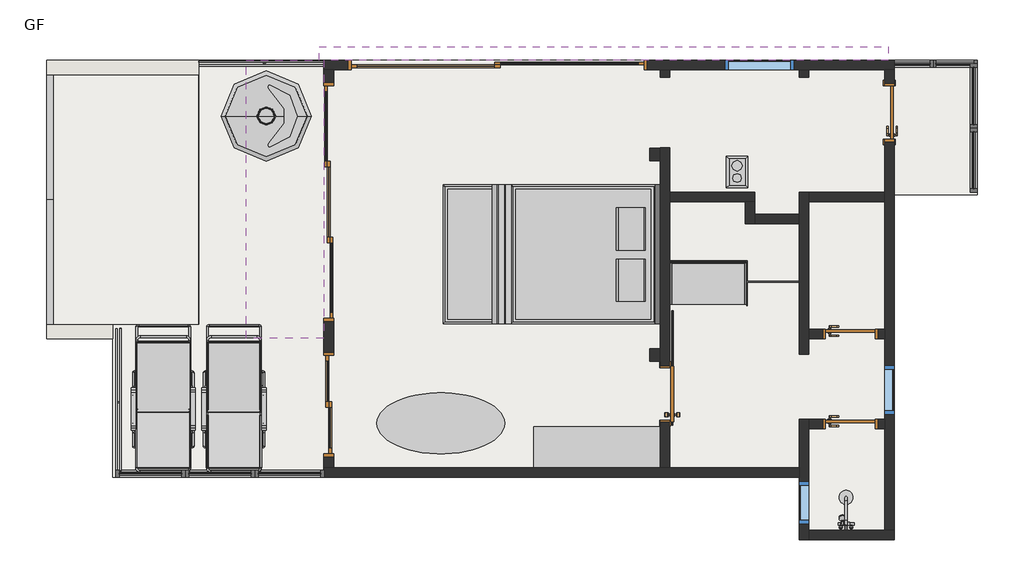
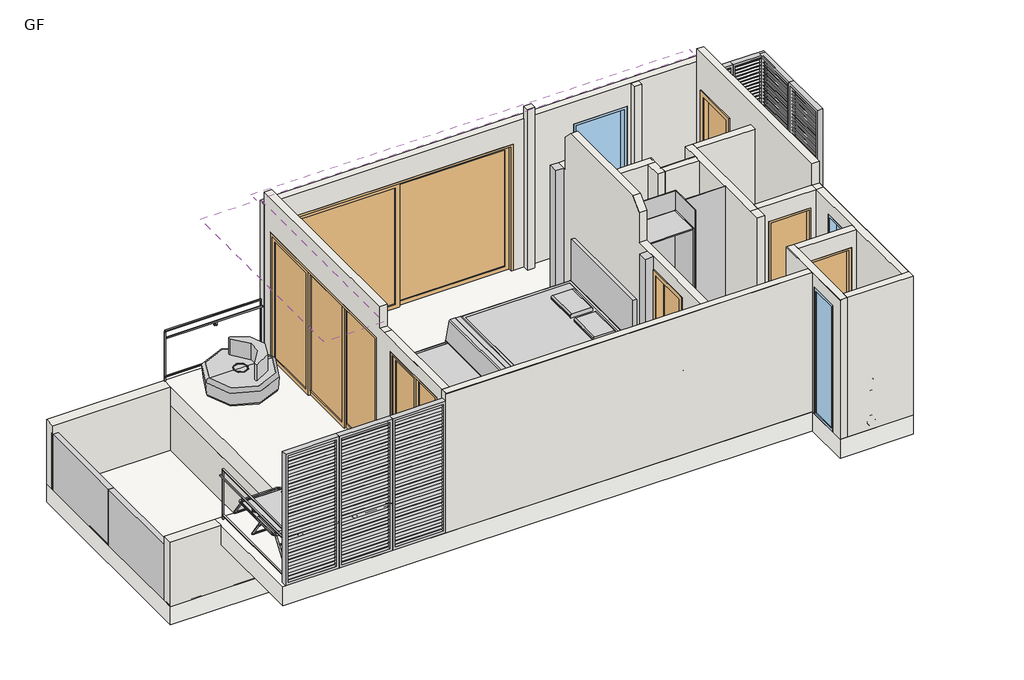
# One storey, incomplete: 19 walls, 9 plates, 7 doors, 6 furniture elements, 5 proxies, 3 windows, 2 columns, 2 railings, 4 other elements.
"""IFC4 building model written with IfcOpenShell, lengths in millimetres."""

from ifc_helpers import new_model, si_unit, frame, origin, place, context, project, spatial, polyline, outline, extrude, faceted_brep, transform, mapped, element, save
from components import building_element_proxy_cf76aa7a, generic_models_9412027a, generic_models_c3175720, proxy_305_x_457mm_75991893, door_1500x2500mm_faec45d4, door_3450x2500mm_e06ce5b7, door_4300x2500mm_0f1cdf81, door_800_x_2425mm_65640e85, door_800_x_2450mm_f909f3a4, door_850_x_2425mm_c86dc4c1, flow_terminal_c37f5bd6, furniture_7e7049e8, furniture_a10c869f, furniture_6569f3a2, furniture_1678007a, furniture_1830_x_0762mm_41534f7a, plate_4897ade4, plate_be6fd167, plate_ee00122f, plate_0f27ba0c, window_1000x2500mm_fe69bf6f, window_600x2500mm_82114602, window_700x2500mm_27f117f9

model = new_model("IFC4")

# Units and contexts
model_context = context("Model", 3, world=origin())
ifc_project = project(units=[si_unit("LENGTHUNIT", "METRE", prefix="MILLI")], contexts=[model_context])

# Site, building, storey
site = spatial("IfcSite", under=ifc_project)
building = spatial("IfcBuilding", under=site)
storey = spatial("IfcBuildingStorey", under=building, Name="GF", Elevation=20.0)

# Proxies
placement = place(None, origin())
building_element_proxy_shape = building_element_proxy_cf76aa7a(model_context)
element("IfcBuildingElementProxy", 1, Name="支座 - 金属 - 圆形 : 支座 - 金属 - 圆形", ObjectType="支座 - 金属 - 圆形 : 支座 - 金属 - 圆形", at=placement, inside=storey, context=model_context, shape_type="MappedRepresentation", body=[
    mapped(building_element_proxy_shape, transform((-3835.6711453, 2962.6904444, 900.0), x_axis=(1.0, 0.0, 0.0), y_axis=(0.0, 1.0, 0.0), z_axis=(0.0, 0.0, 1.0))),
])
element("IfcBuildingElementProxy", 2, Name="支座 - 金属 - 圆形 : 支座 - 金属 - 圆形", ObjectType="支座 - 金属 - 圆形 : 支座 - 金属 - 圆形", at=placement, inside=storey, context=model_context, shape_type="MappedRepresentation", body=[
    mapped(building_element_proxy_shape, transform((-5961.467766, -1883.9595556, 900.0), x_axis=(0.0, -1.0, 0.0), y_axis=(1.0, 0.0, 0.0), z_axis=(0.0, 0.0, 1.0))),
])
generic_models_shape = generic_models_9412027a(model_context)
element("IfcBuildingElementProxy", 3, Name="双人床5 : 双人床5", ObjectType="双人床5 : 双人床5", at=placement, inside=storey, context=model_context, shape_type="MappedRepresentation", body=[
    mapped(generic_models_shape, transform((-477.867766, -505.8095556, 20.0), x_axis=(0.0, -1.0, 0.0), y_axis=(1.0, 0.0, 0.0), z_axis=(0.0, 0.0, 1.0))),
])
generic_models_2_shape = generic_models_c3175720(model_context)
element("IfcBuildingElementProxy", 4, Name="常规模型 3 : 常规模型 3", ObjectType="常规模型 3 : 常规模型 3", at=placement, inside=storey, context=model_context, shape_type="MappedRepresentation", body=[
    mapped(generic_models_2_shape, transform((0.0, 0.0, 0.0), x_axis=(1.0, 0.0, 0.0), y_axis=(0.0, 1.0, 0.0), z_axis=(0.0, 0.0, 1.0))),
])
proxy_305_x_457mm_shape = proxy_305_x_457mm_75991893(model_context)
element("IfcBuildingElementProxy", 5, Name="炉灶面 - 2 套 : 305 x 457mm", ObjectType="炉灶面 - 2 套 : 305 x 457mm", at=placement, inside=storey, context=model_context, shape_type="MappedRepresentation", body=[
    mapped(proxy_305_x_457mm_shape, transform((2895.932234, 1401.4656489, 20.0), x_axis=(1.0, 0.0, 0.0), y_axis=(0.0, 1.0, 0.0), z_axis=(0.0, 0.0, 1.0))),
])

# Columns
element("IfcColumn", 6, ObjectType="矩形柱 : 180x180", at=placement, inside=storey, context=model_context, shape_type="SweptSolid", body=[
    extrude(outline(polyline([(1712.132234, 1594.1904444), (1712.132234, 1774.1904444), (1867.132234, 1774.1904444), (1867.132234, 1594.1904444), (1712.132234, 1594.1904444)])), frame((0.0, 0.0, 20.0), z_axis=(0.0, 0.0, 1.0), x_axis=(1.0, 0.0, 0.0)), (0.0, 0.0, 1.0), 2750.0),
])
element("IfcColumn", 7, ObjectType="矩形柱 : 180x180", at=placement, inside=storey, context=model_context, shape_type="SweptSolid", body=[
    extrude(outline(polyline([(1712.132234, -1295.3095556), (1712.132234, -1115.3095556), (1867.132234, -1115.3095556), (1867.132234, -1295.3095556), (1712.132234, -1295.3095556)])), frame((0.0, 0.0, 20.0), z_axis=(0.0, 0.0, 1.0), x_axis=(1.0, 0.0, 0.0)), (0.0, 0.0, 1.0), 2750.0),
])

# Covering
element("IfcCovering", 8, ObjectType="光面 4", at=placement, inside=storey, context=model_context, shape_type="SweptSolid", body=[
    extrude(outline(polyline([(-2976.6711453, -963.0095556), (-4096.6712332, -963.0095556), (-4096.6712332, 3041.6904444), (-3042.6712332, 3041.6904444), (-3042.6712332, 3236.6904444), (5152.1641491, 3236.6904444), (5152.1641491, 3041.6904444), (-2976.6711453, 3041.6904444), (-2976.6711453, -963.0095556)])), frame((0.0, 0.0, 2970.0), z_axis=(0.0, 0.0, 1.0), x_axis=(1.0, 0.0, 0.0)), (0.0, 0.0, 1.0), 20.0),
    extrude(outline(polyline([(5233.132234, -963.0095556), (5233.132234, 3041.6904444), (6348.2642683, 3041.6904444), (6348.2642683, -963.0095556), (5233.132234, -963.0095556)])), frame((0.0, 0.0, 2970.0), z_axis=(0.0, 0.0, 1.0), x_axis=(1.0, 0.0, 0.0)), (0.0, 0.0, 1.0), 20.0),
])

# Doors
door_1500x2500mm_shape = door_1500x2500mm_faec45d4(model_context)
element("IfcDoor", 9, ObjectType="双扇推拉门 : 1500x2500mm", at=placement, inside=storey, context=model_context, shape_type="MappedRepresentation", body=[
    mapped(door_1500x2500mm_shape, transform((-2867.6711453, -2044.2095556, 20.0), x_axis=(0.0, 1.0, 0.0), y_axis=(-1.0, 0.0, 0.0), z_axis=(0.0, 0.0, 1.0))),
])
door_3450x2500mm_shape = door_3450x2500mm_e06ce5b7(model_context)
element("IfcDoor", 10, ObjectType="三扇推拉门 : 3450x2500mm", at=placement, inside=storey, context=model_context, shape_type="MappedRepresentation", body=[
    mapped(door_3450x2500mm_shape, transform((-2907.6711453, 872.6905657, 20.0), x_axis=(0.0, 1.0, 0.0), y_axis=(-1.0, 0.0, 0.0), z_axis=(0.0, 0.0, 1.0))),
])
door_4300x2500mm_shape = door_4300x2500mm_0f1cdf81(model_context)
element("IfcDoor", 11, ObjectType="双扇推拉门 : 4300x2500mm", at=placement, inside=storey, context=model_context, shape_type="MappedRepresentation", body=[
    mapped(door_4300x2500mm_shape, transform((-351.6712309, 3012.6904444, 20.0), x_axis=(-1.0, 0.0, 0.0), y_axis=(0.0, -1.0, 0.0), z_axis=(0.0, 0.0, 1.0))),
])
door_800_x_2425mm_shape = door_800_x_2425mm_65640e85(model_context)
element("IfcDoor", 12, ObjectType="单扇平开门 : 800 x 2425mm", at=placement, inside=storey, context=model_context, shape_type="MappedRepresentation", body=[
    mapped(door_800_x_2425mm_shape, transform((4604.132234, -896.5345556, 20.0), x_axis=(1.0, 0.0, 0.0), y_axis=(0.0, 1.0, 0.0), z_axis=(0.0, 0.0, 1.0))),
])
element("IfcDoor", 13, ObjectType="单扇平开门 : 800 x 2425mm", at=placement, inside=storey, context=model_context, shape_type="MappedRepresentation", body=[
    mapped(door_800_x_2425mm_shape, transform((4604.132234, -2196.1345556, 20.0), x_axis=(1.0, 0.0, 0.0), y_axis=(0.0, 1.0, 0.0), z_axis=(0.0, 0.0, 1.0))),
])
door_800_x_2450mm_shape = door_800_x_2450mm_f909f3a4(model_context)
element("IfcDoor", 14, ObjectType="单扇推拉门 - 墙外 : 800 x 2450mm", at=placement, inside=storey, context=model_context, shape_type="MappedRepresentation", body=[
    mapped(door_800_x_2450mm_shape, transform((1936.132234, -1765.3095556, 20.0), x_axis=(0.0, -1.0, 0.0), y_axis=(1.0, 0.0, 0.0), z_axis=(0.0, 0.0, 1.0))),
])
door_850_x_2425mm_shape = door_850_x_2425mm_c86dc4c1(model_context)
element("IfcDoor", 15, ObjectType="单扇平开门 : 850 x 2425mm", at=placement, inside=storey, context=model_context, shape_type="MappedRepresentation", body=[
    mapped(door_850_x_2425mm_shape, transform((5167.307234, 2285.7904444, 20.0), x_axis=(0.0, 1.0, 0.0), y_axis=(-1.0, 0.0, 0.0), z_axis=(0.0, 0.0, 1.0))),
])

# Flow terminal
flow_terminal_shape = flow_terminal_c37f5bd6(model_context)
element("IfcFlowTerminal", 16, ObjectType="伟星_淋浴套装_圆形 : Rainshower", at=placement, inside=storey, context=model_context, shape_type="MappedRepresentation", body=[
    mapped(flow_terminal_shape, transform((4541.0440046, -3698.2095556, 20.0), x_axis=(-1.0, 0.0, 0.0), y_axis=(0.0, -1.0, 0.0), z_axis=(0.0, 0.0, 1.0))),
])

# Furniture
furniture_shape = furniture_7e7049e8(model_context)
element("IfcFurniture", 17, ObjectType="休闲椅-躺椅 : 休闲椅-躺椅", at=placement, inside=storey, context=model_context, shape_type="MappedRepresentation", body=[
    mapped(furniture_shape, transform((-5346.4155885, -1605.0053199, 20.0), x_axis=(-1.0, 0.0, 0.0), y_axis=(0.0, -1.0, 0.0), z_axis=(0.0, 0.0, 1.0))),
])
element("IfcFurniture", 18, ObjectType="休闲椅-躺椅 : 休闲椅-躺椅", at=placement, inside=storey, context=model_context, shape_type="MappedRepresentation", body=[
    mapped(furniture_shape, transform((-4327.111671, -1605.0053199, 20.0), x_axis=(-1.0, 0.0, 0.0), y_axis=(0.0, -1.0, 0.0), z_axis=(0.0, 0.0, 1.0))),
])
furniture_2_shape = furniture_a10c869f(model_context)
element("IfcFurniture", 19, ObjectType="沙发 : 沙发", at=placement, inside=storey, context=model_context, shape_type="MappedRepresentation", body=[
    mapped(furniture_2_shape, transform((-3808.1148663, 2236.6904444, 20.0), x_axis=(1.0, 0.0, 0.0), y_axis=(0.0, 1.0, 0.0), z_axis=(0.0, 0.0, 1.0))),
])
furniture_3_shape = furniture_6569f3a2(model_context)
element("IfcFurniture", 20, ObjectType="家具 2 : 家具 2", at=placement, inside=storey, context=model_context, shape_type="MappedRepresentation", body=[
    mapped(furniture_3_shape, transform((148.3176615, -4.7196103, 0.0), x_axis=(1.0, 0.0, 0.0), y_axis=(0.0, 1.0, 0.0), z_axis=(0.0, 0.0, 1.0))),
])
furniture_4_shape = furniture_1678007a(model_context)
element("IfcFurniture", 21, ObjectType="衣柜（全参数族） : 1092*2400*600", at=placement, inside=storey, context=model_context, shape_type="MappedRepresentation", body=[
    mapped(furniture_4_shape, transform((3102.132234, 724.6904444, 0.0), x_axis=(-1.0, 0.0, 0.0), y_axis=(0.0, -1.0, 0.0), z_axis=(0.0, 0.0, 1.0))),
])
furniture_1830_x_0762mm_shape = furniture_1830_x_0762mm_41534f7a(model_context)
element("IfcFurniture", 22, ObjectType="桌子 - 矩形 : 1830 x 0762mm", at=placement, inside=storey, context=model_context, shape_type="MappedRepresentation", body=[
    mapped(furniture_1830_x_0762mm_shape, transform((956.132234, -2535.2095556, 20.0), x_axis=(1.0, 0.0, 0.0), y_axis=(0.0, 1.0, 0.0), z_axis=(0.0, 0.0, 1.0))),
])

# Plates
plate_shape = plate_4897ade4(model_context)
element("IfcPlate", 23, ObjectType="幕墙嵌板-百叶 : 幕墙嵌板-百叶", at=placement, inside=storey, context=model_context, shape_type="MappedRepresentation", body=[
    mapped(plate_shape, transform((6378.232234, 2524.1904444, 20.0), x_axis=(0.0, -1.0, 0.0), y_axis=(1.0, 0.0, 0.0), z_axis=(0.0, 0.0, 1.0))),
])
element("IfcPlate", 24, ObjectType="幕墙嵌板-百叶 : 幕墙嵌板-百叶", at=placement, inside=storey, context=model_context, shape_type="MappedRepresentation", body=[
    mapped(plate_shape, transform((6378.232234, 1599.1904444, 20.0), x_axis=(0.0, -1.0, 0.0), y_axis=(1.0, 0.0, 0.0), z_axis=(0.0, 0.0, 1.0))),
])
plate_2_shape = plate_be6fd167(model_context)
element("IfcPlate", 25, ObjectType="幕墙嵌板-百叶 : 幕墙嵌板-百叶", at=placement, inside=storey, context=model_context, shape_type="MappedRepresentation", body=[
    mapped(plate_2_shape, transform((5480.157234, 2986.6904444, 20.0), x_axis=(1.0, 0.0, 0.0), y_axis=(0.0, 1.0, 0.0), z_axis=(0.0, 0.0, 1.0))),
])
element("IfcPlate", 26, ObjectType="幕墙嵌板-百叶 : 幕墙嵌板-百叶", at=placement, inside=storey, context=model_context, shape_type="MappedRepresentation", body=[
    mapped(plate_2_shape, transform((6112.207234, 2986.6904444, 20.0), x_axis=(1.0, 0.0, 0.0), y_axis=(0.0, 1.0, 0.0), z_axis=(0.0, 0.0, 1.0))),
])
plate_3_shape = plate_ee00122f(model_context)
element("IfcPlate", 27, ObjectType="幕墙嵌板-百叶 : 幕墙嵌板-百叶", at=placement, inside=storey, context=model_context, shape_type="MappedRepresentation", body=[
    mapped(plate_3_shape, transform((-3471.6372488, -2913.2095556, 20.0), x_axis=(-1.0, 0.0, 0.0), y_axis=(0.0, -1.0, 0.0), z_axis=(0.0, 0.0, 1.0))),
])
element("IfcPlate", 28, ObjectType="幕墙嵌板-百叶 : 幕墙嵌板-百叶", at=placement, inside=storey, context=model_context, shape_type="MappedRepresentation", body=[
    mapped(plate_3_shape, transform((-4471.5694557, -2913.2095556, 20.0), x_axis=(-1.0, 0.0, 0.0), y_axis=(0.0, -1.0, 0.0), z_axis=(0.0, 0.0, 1.0))),
])
element("IfcPlate", 29, ObjectType="幕墙嵌板-百叶 : 幕墙嵌板-百叶", at=placement, inside=storey, context=model_context, shape_type="MappedRepresentation", body=[
    mapped(plate_3_shape, transform((-5471.5016625, -2913.2095556, 20.0), x_axis=(-1.0, 0.0, 0.0), y_axis=(0.0, -1.0, 0.0), z_axis=(0.0, 0.0, 1.0))),
])
plate_4_shape = plate_0f27ba0c(model_context)
element("IfcPlate", 30, ObjectType="系统嵌板 : 玻璃", at=placement, inside=storey, context=model_context, shape_type="MappedRepresentation", body=[
    mapped(plate_4_shape, transform((-6921.467766, 115.4031258, -1250.0), x_axis=(0.0, 1.0, 0.0), y_axis=(-1.0, 0.0, 0.0), z_axis=(0.0, 0.0, 1.0))),
])
element("IfcPlate", 31, ObjectType="系统嵌板 : 玻璃", at=placement, inside=storey, context=model_context, shape_type="MappedRepresentation", body=[
    mapped(plate_4_shape, transform((-6921.467766, 1952.9280049, -1250.0), x_axis=(0.0, 1.0, 0.0), y_axis=(-1.0, 0.0, 0.0), z_axis=(0.0, 0.0, 1.0))),
])

# Railings
element("IfcRailing", 32, ObjectType="玻璃嵌板 - 底部填充", at=placement, inside=storey, context=model_context, shape_type="SolidModel", body=[
    faceted_brep([(-2936.6711453, 3009.6904444, 920.0), (-2936.6711453, 3009.6904444, 900.0), (-2956.6711453, 3009.6904444, 900.0), (-2956.6711453, 3009.6904444, 920.0), (-2936.6711453, 2952.6904444, 920.0), (-2936.6711453, 2952.6904444, 900.0), (-2956.6711453, 2972.6904444, 900.0), (-2956.6711453, 2972.6904444, 920.0), (-2976.6711453, 2952.6904444, 920.0), (-2976.6711453, 2952.6904444, 900.0), (-2976.6711453, 2972.6904444, 900.0), (-2976.6711453, 2972.6904444, 920.0), (-4771.6711453, 2952.6904444, 920.0), (-4771.6711453, 2972.6904444, 920.0), (-4771.6711453, 2972.6904444, 900.0), (-4771.6711453, 2952.6904444, 900.0)], [[[0, 1, 2, 3]], [[1, 0, 4, 5]], [[2, 1, 5, 6]], [[3, 2, 6, 7]], [[0, 3, 7, 4]], [[5, 4, 8, 9]], [[6, 5, 9, 10]], [[7, 6, 10, 11]], [[4, 7, 11, 8]], [[12, 13, 14, 15]], [[9, 8, 12, 15]], [[10, 9, 15, 14]], [[11, 10, 14, 13]], [[8, 11, 13, 12]]]),
    extrude(outline(polyline([(-2976.6711453, 3027.6904444), (-2976.6711453, 3007.6904444), (-4771.6711453, 3007.6904444), (-4771.6711453, 3027.6904444), (-2976.6711453, 3027.6904444)])), frame((0.0, 0.0, 1000.0), z_axis=(0.0, 0.0, 1.0), x_axis=(1.0, 0.0, 0.0)), (0.0, 0.0, 1.0), 20.0),
    extrude(outline(polyline([(-2976.6711453, 3027.6904444), (-2976.6711453, 3007.6904444), (-4771.6711453, 3007.6904444), (-4771.6711453, 3027.6904444), (-2976.6711453, 3027.6904444)])), frame((0.0, 0.0, 100.0), z_axis=(0.0, 0.0, 1.0), x_axis=(1.0, 0.0, 0.0)), (0.0, 0.0, 1.0), 20.0),
    extrude(outline(polyline([(-4759.6711453, 3027.6904444), (-4759.6711453, 3007.6904444), (-4779.6711453, 3007.6904444), (-4779.6711453, 3027.6904444), (-4759.6711453, 3027.6904444)])), frame((0.0, 0.0, 20.0), z_axis=(0.0, 0.0, 1.0), x_axis=(1.0, 0.0, 0.0)), (0.0, 0.0, 1.0), 980.0),
    extrude(outline(polyline([(-2968.6711453, 3027.6904444), (-2968.6711453, 3007.6904444), (-2988.6711453, 3007.6904444), (-2988.6711453, 3027.6904444), (-2968.6711453, 3027.6904444)])), frame((0.0, 0.0, 20.0), z_axis=(0.0, 0.0, 1.0), x_axis=(1.0, 0.0, 0.0)), (0.0, 0.0, 1.0), 980.0),
])
element("IfcRailing", 33, ObjectType="玻璃嵌板 - 底部填充", at=placement, inside=storey, context=model_context, shape_type="SolidModel", body=[
    faceted_brep([(-5914.467766, -2903.2095556, 920.0), (-5914.467766, -2903.2095556, 900.0), (-5914.467766, -2883.2095556, 900.0), (-5914.467766, -2883.2095556, 920.0), (-5971.467766, -2903.2095556, 920.0), (-5971.467766, -2903.2095556, 900.0), (-5951.467766, -2883.2095556, 900.0), (-5951.467766, -2883.2095556, 920.0), (-5971.467766, -2863.2095556, 920.0), (-5971.467766, -2863.2095556, 900.0), (-5951.467766, -2863.2095556, 900.0), (-5951.467766, -2863.2095556, 920.0), (-5971.467766, -827.7095556, 920.0), (-5951.467766, -827.7095556, 920.0), (-5951.467766, -827.7095556, 900.0), (-5971.467766, -827.7095556, 900.0)], [[[0, 1, 2, 3]], [[1, 0, 4, 5]], [[2, 1, 5, 6]], [[3, 2, 6, 7]], [[0, 3, 7, 4]], [[5, 4, 8, 9]], [[6, 5, 9, 10]], [[7, 6, 10, 11]], [[4, 7, 11, 8]], [[12, 13, 14, 15]], [[9, 8, 12, 15]], [[10, 9, 15, 14]], [[11, 10, 14, 13]], [[8, 11, 13, 12]]]),
    extrude(outline(polyline([(-5896.467766, -2863.2095556), (-5916.467766, -2863.2095556), (-5916.467766, -827.7095556), (-5896.467766, -827.7095556), (-5896.467766, -2863.2095556)])), frame((0.0, 0.0, 1000.0), z_axis=(0.0, 0.0, 1.0), x_axis=(1.0, 0.0, 0.0)), (0.0, 0.0, 1.0), 20.0),
    extrude(outline(polyline([(-5896.467766, -2863.2095556), (-5916.467766, -2863.2095556), (-5916.467766, -827.7095556), (-5896.467766, -827.7095556), (-5896.467766, -2863.2095556)])), frame((0.0, 0.0, 100.0), z_axis=(0.0, 0.0, 1.0), x_axis=(1.0, 0.0, 0.0)), (0.0, 0.0, 1.0), 20.0),
    extrude(outline(polyline([(-5896.467766, -839.7095556), (-5916.467766, -839.7095556), (-5916.467766, -819.7095556), (-5896.467766, -819.7095556), (-5896.467766, -839.7095556)])), frame((0.0, 0.0, 20.0), z_axis=(0.0, 0.0, 1.0), x_axis=(1.0, 0.0, 0.0)), (0.0, 0.0, 1.0), 980.0),
    extrude(outline(polyline([(-5896.467766, -2871.2095556), (-5916.467766, -2871.2095556), (-5916.467766, -2851.2095556), (-5896.467766, -2851.2095556), (-5896.467766, -2871.2095556)])), frame((0.0, 0.0, 20.0), z_axis=(0.0, 0.0, 1.0), x_axis=(1.0, 0.0, 0.0)), (0.0, 0.0, 1.0), 980.0),
])

# Slabs
element("IfcSlab", 34, ObjectType="常规 - 360mm", at=placement, inside=storey, context=model_context, shape_type="SweptSolid", body=[
    extrude(outline(polyline([(-6021.467766, -2968.2095556), (-6021.467766, -765.8593137), (-4771.6711453, -765.8593137), (-4771.6711453, 3041.6904444), (-2316.327803, 3041.6904444), (6433.572197, 3041.6904444), (6433.572197, 1104.4087993), (5233.132234, 1104.4087993), (5233.132234, -3868.2095556), (3867.132234, -3868.2095556), (3867.132234, -2968.2095556), (-6021.467766, -2968.2095556)])), frame((0.0, 0.0, -355.0), z_axis=(0.0, 0.0, 1.0), x_axis=(1.0, 0.0, 0.0)), (0.0, 0.0, 1.0), 375.0),
])
element("IfcSlab", 35, ObjectType="常规 - 360mm", at=placement, inside=storey, context=model_context, shape_type="SweptSolid", body=[
    extrude(outline(polyline([(-4643.6711453, -968.8593137), (-6971.467766, -968.8593137), (-6971.467766, 3037.1904444), (-4643.6711453, 3037.1904444), (-4643.6711453, -968.8593137)])), frame((0.0, 0.0, -1610.0), z_axis=(0.0, 0.0, 1.0), x_axis=(1.0, 0.0, 0.0)), (0.0, 0.0, 1.0), 375.0),
])

# Walls
element("IfcWall", 36, ObjectType="Int-100 10-09/100/09-10/S1", at=placement, inside=storey, context=model_context, shape_type="Brep", body=[
    faceted_brep([(5233.132234, 2903.6904444, 2950.0), (4005.132234, 2903.6904444, 2950.0), (3867.132234, 2903.6904444, 2950.0), (-2976.6711453, 2903.6904444, 2950.0), (-2976.6711453, 2903.6904444, 20.0), (-2838.6711453, 2903.6904444, 20.0), (-2626.6712309, 2903.6904444, 20.0), (-2626.6712309, 2903.6904444, 2520.0), (1673.3287691, 2903.6904444, 2520.0), (1673.3287691, 2903.6904444, 20.0), (1867.132234, 2903.6904444, 20.0), (2005.132234, 2903.6904444, 20.0), (2797.1321461, 2903.6904444, 20.0), (2797.1321461, 2903.6904444, 2520.0), (3797.1321461, 2903.6904444, 2520.0), (3797.1321461, 2903.6904444, 20.0), (3867.132234, 2903.6904444, 20.0), (4005.132234, 2903.6904444, 20.0), (5095.132234, 2903.6904444, 20.0), (5233.132234, 2903.6904444, 20.0), (-2976.6711453, 3041.6904444, 2950.0), (5233.132234, 3041.6904444, 2950.0), (5233.132234, 3041.6904444, 20.0), (3797.1321461, 3041.6904444, 20.0), (3797.1321461, 3041.6904444, 2520.0), (2797.1321461, 3041.6904444, 2520.0), (2797.1321461, 3041.6904444, 20.0), (1673.3287691, 3041.6904444, 20.0), (1673.3287691, 3041.6904444, 2520.0), (-2626.6712309, 3041.6904444, 2520.0), (-2626.6712309, 3041.6904444, 20.0), (-2976.6711453, 3041.6904444, 20.0)], [[[0, 1, 2, 3, 4, 5, 6, 7, 8, 9, 10, 11, 12, 13, 14, 15, 16, 17, 18, 19]], [[20, 21, 22, 23, 24, 25, 26, 27, 28, 29, 30, 31]], [[4, 31, 30, 6, 5]], [[9, 27, 26, 12, 11, 10]], [[22, 19, 18, 17, 16, 15, 23]], [[3, 2, 1, 0, 21, 20]], [[4, 3, 20, 31]], [[8, 28, 27, 9]], [[7, 6, 30, 29]], [[28, 8, 7, 29]], [[14, 24, 23, 15]], [[25, 13, 12, 26]], [[24, 14, 13, 25]], [[0, 19, 22, 21]]]),
])
element("IfcWall", 37, ObjectType="Int-100 10-09/100/09-10/S1", at=placement, inside=storey, context=model_context, shape_type="Brep", body=[
    faceted_brep([(-2838.6711453, 2903.6904444, 20.0), (-2838.6711453, 2903.6904444, 3200.0), (-2838.6711453, -830.2095556, 3200.0), (-2838.6711453, -830.2095556, 2770.0), (-2838.6711453, -968.2095556, 2770.0), (-2838.6711453, -2830.2095556, 2770.0), (-2838.6711453, -2830.2095556, 20.0), (-2838.6711453, -2669.2095556, 20.0), (-2838.6711453, -2669.2095556, 2520.0), (-2838.6711453, -1169.2095556, 2520.0), (-2838.6711453, -1169.2095556, 20.0), (-2838.6711453, -727.3094343, 20.0), (-2838.6711453, -727.3094343, 2520.0), (-2838.6711453, 2722.6905657, 2520.0), (-2838.6711453, 2722.6905657, 20.0), (-2976.6711453, 2903.6904444, 3200.0), (-2976.6711453, 2903.6904444, 2950.0), (-2976.6711453, 2903.6904444, 20.0), (-2976.6711453, 2722.6905657, 20.0), (-2976.6711453, 2722.6905657, 2520.0), (-2976.6711453, -727.3094343, 2520.0), (-2976.6711453, -727.3094343, 20.0), (-2976.6711453, -1169.2095556, 20.0), (-2976.6711453, -1169.2095556, 2520.0), (-2976.6711453, -2669.2095556, 2520.0), (-2976.6711453, -2669.2095556, 20.0), (-2976.6711453, -2830.2095556, 20.0), (-2976.6711453, -2830.2095556, 2770.0), (-2976.6711453, -968.2095556, 2770.0), (-2976.6711453, -830.2095556, 2770.0), (-2976.6711453, -830.2095556, 3200.0), (-2971.6711453, -2830.2095556, 2770.0), (-2971.6711453, -968.2095556, 2770.0), (-2971.6711453, -1308.0095556, 2770.0), (-2971.6711453, -830.2095556, 2770.0)], [[[0, 1, 2, 3, 4, 5, 6, 7, 8, 9, 10, 11, 12, 13, 14]], [[15, 16, 17, 18, 19, 20, 21, 22, 23, 24, 25, 26, 27, 28, 29, 30]], [[1, 0, 17, 16, 15]], [[6, 5, 31, 27, 26]], [[12, 11, 21, 20]], [[14, 13, 19, 18]], [[13, 12, 20, 19]], [[5, 4, 32, 33, 31]], [[0, 14, 18, 17]], [[21, 11, 10, 22]], [[6, 26, 25, 7]], [[2, 1, 15, 30]], [[3, 2, 30, 29, 34]], [[9, 23, 22, 10]], [[23, 9, 8, 24]], [[24, 8, 7, 25]], [[4, 3, 34, 32]], [[28, 27, 31, 33, 32]], [[29, 28, 32, 34]]]),
])
element("IfcWall", 38, ObjectType="Int-100 10-09/100/09-10/S1 2", at=placement, inside=storey, context=model_context, shape_type="Brep", body=[
    faceted_brep([(-6971.467766, -968.8593137, -1250.0), (-5971.467766, -968.8593137, -1250.0), (-5571.467766, -968.8593137, -1250.0), (-4638.6711453, -968.8593137, -1250.0), (-4638.6711453, -968.8593137, -355.0), (-5571.467766, -968.8593137, -355.0), (-5971.467766, -968.8593137, -355.0), (-6021.467766, -968.8593137, -355.0), (-6021.467766, -968.8593137, 20.0), (-6971.467766, -968.8593137, 20.0), (-6971.467766, -765.8593137, -1250.0), (-6971.467766, -765.8593137, 20.0), (-6021.467766, -765.8593137, 20.0), (-6021.467766, -765.8593137, -355.0), (-4776.6711453, -765.8593137, -355.0), (-4638.6711453, -765.8593137, -355.0), (-4638.6711453, -765.8593137, -1250.0), (-4776.6711453, -765.8593137, -1250.0)], [[[0, 1, 2, 3, 4, 5, 6, 7, 8, 9]], [[10, 11, 12, 13, 14, 15, 16, 17]], [[4, 3, 16, 15]], [[3, 2, 1, 0, 10, 17, 16]], [[9, 8, 12, 11]], [[0, 9, 11, 10]], [[7, 6, 5, 4, 15, 14, 13]], [[8, 7, 13, 12]]]),
])
element("IfcWall", 39, ObjectType="Int-100 10-09/100/09-10/S1 2", at=placement, inside=storey, context=model_context, shape_type="Brep", body=[
    faceted_brep([(-4776.6711453, 3037.1904444, -1250.0), (-6971.467766, 3037.1904444, -1250.0), (-6971.467766, 3037.1904444, 20.0), (-4776.6711453, 3037.1904444, 20.0), (-4776.6711453, 3037.1904444, -355.0), (-4776.6711453, 2834.1904444, -1250.0), (-4776.6711453, 2834.1904444, 20.0), (-6971.467766, 2834.1904444, 20.0), (-6971.467766, 2834.1904444, -1250.0)], [[[0, 1, 2, 3, 4]], [[5, 6, 7, 8]], [[1, 0, 5, 8]], [[2, 1, 8, 7]], [[3, 2, 7, 6]], [[0, 4, 3, 6, 5]]]),
])
element("IfcWall", 40, ObjectType="Int-100 10-09/100/09-10/S1", at=placement, inside=storey, context=model_context, shape_type="Brep", body=[
    faceted_brep([(-4638.6711453, -765.8593137, -1250.0), (-4638.6711453, 3037.1904444, -1250.0), (-4638.6711453, 3037.1904444, -355.0), (-4638.6711453, -765.8593137, -355.0), (-4776.6711453, -765.8593137, -1250.0), (-4776.6711453, -765.8593137, -355.0), (-4776.6711453, 3037.1904444, -355.0), (-4776.6711453, 3037.1904444, -1250.0), (-4776.6711453, 2834.1904444, -1250.0)], [[[0, 1, 2, 3]], [[4, 5, 6, 7, 8]], [[1, 0, 4, 8, 7]], [[3, 2, 6, 5]], [[0, 3, 5, 4]], [[2, 1, 7, 6]]]),
])
element("IfcWall", 41, ObjectType="Int-100 10-09/100/09-10/S1", at=placement, inside=storey, context=model_context, shape_type="Brep", body=[
    faceted_brep([(3867.132234, 1141.6904444, 20.0), (3867.132234, 823.6904444, 20.0), (3867.132234, 685.6904444, 20.0), (3867.132234, -1195.3095556, 20.0), (3867.132234, -1195.3095556, 2770.0), (3867.132234, -968.2095556, 2770.0), (3867.132234, 685.6904444, 2770.0), (3867.132234, 823.6904444, 2770.0), (3867.132234, 1141.6904444, 2770.0), (4005.132234, 1141.6904444, 20.0), (4005.132234, 1141.6904444, 2770.0), (4005.132234, 1003.6904444, 2770.0), (4005.132234, -830.7095556, 2770.0), (4005.132234, -968.2095556, 2770.0), (4005.132234, -968.7095556, 2770.0), (4005.132234, -1195.3095556, 2770.0), (4005.132234, -1195.3095556, 20.0), (4005.132234, -968.7095556, 20.0), (4005.132234, -830.7095556, 20.0), (4005.132234, 1003.6904444, 20.0)], [[[0, 1, 2, 3, 4, 5, 6, 7, 8]], [[9, 10, 11, 12, 13, 14, 15, 16, 17, 18, 19]], [[3, 2, 1, 0, 9, 19, 18, 17, 16]], [[4, 3, 16, 15]], [[0, 8, 10, 9]], [[8, 7, 6, 5, 13, 12, 11, 10]], [[5, 4, 15, 14, 13]]]),
])
element("IfcWall", 42, ObjectType="Int-100 10-09/100/09-10/S1", at=placement, inside=storey, context=model_context, shape_type="Brep", body=[
    faceted_brep([(1867.132234, -621.8775212, 3570.0), (1867.132234, 1391.1310307, 3570.0), (1867.132234, 1561.8404444, 3399.2905862), (1867.132234, 1561.8404444, 2770.0), (1867.132234, 1594.1904444, 2770.0), (1867.132234, 1774.1904444, 2770.0), (1867.132234, 1778.6904444, 2770.0), (1867.132234, 1778.6904444, 20.0), (1867.132234, 1774.1904444, 20.0), (1867.132234, 1594.1904444, 20.0), (1867.132234, -1115.3095556, 20.0), (1867.132234, -1295.3095556, 20.0), (1867.132234, -1365.3095556, 20.0), (1867.132234, -1365.3095556, 2470.0), (1867.132234, -2165.3095556, 2470.0), (1867.132234, -2165.3095556, 20.0), (1867.132234, -2830.2095556, 20.0), (1867.132234, -2830.2095556, 2770.0), (1867.132234, -1295.3095556, 2770.0), (1867.132234, -1115.3095556, 2770.0), (1867.132234, -830.2095556, 2770.0), (1867.132234, -830.2095556, 3361.6679656), (2005.132234, 1391.1310307, 3570.0), (2005.132234, -621.8775212, 3570.0), (2005.132234, -830.2095556, 3361.6679656), (2005.132234, -830.2095556, 2770.0), (2005.132234, -2830.2095556, 2770.0), (2005.132234, -2830.2095556, 20.0), (2005.132234, -2165.3095556, 20.0), (2005.132234, -2165.3095556, 2470.0), (2005.132234, -1365.3095556, 2470.0), (2005.132234, -1365.3095556, 20.0), (2005.132234, 1003.6904444, 20.0), (2005.132234, 1141.6904444, 20.0), (2005.132234, 1778.6904444, 20.0), (2005.132234, 1778.6904444, 2770.0), (2005.132234, 1561.8404444, 2770.0), (2005.132234, 1561.8404444, 3399.2905862)], [[[0, 1, 2, 3, 4, 5, 6, 7, 8, 9, 10, 11, 12, 13, 14, 15, 16, 17, 18, 19, 20, 21]], [[22, 23, 24, 25, 26, 27, 28, 29, 30, 31, 32, 33, 34, 35, 36, 37]], [[7, 34, 33, 32, 31, 12, 11, 10, 9, 8]], [[27, 16, 15, 28]], [[1, 0, 23, 22]], [[7, 6, 35, 34]], [[20, 19, 18, 17, 26, 25]], [[0, 21, 24, 23]], [[2, 1, 22, 37]], [[3, 2, 37, 36]], [[6, 5, 4, 3, 36, 35]], [[17, 16, 27, 26]], [[14, 29, 28, 15]], [[29, 14, 13, 30]], [[30, 13, 12, 31]], [[21, 20, 25, 24]]]),
])
element("IfcWall", 43, ObjectType="Int-100 10-09/100/09-10/S1", at=placement, inside=storey, context=model_context, shape_type="Brep", body=[
    faceted_brep([(5095.132234, -968.7095556, 2770.0), (4005.132234, -968.7095556, 2770.0), (4005.132234, -968.7095556, 20.0), (4204.132234, -968.7095556, 20.0), (4204.132234, -968.7095556, 2445.0), (5004.132234, -968.7095556, 2445.0), (5004.132234, -968.7095556, 20.0), (5095.132234, -968.7095556, 20.0), (4005.132234, -830.7095556, 2770.0), (5095.132234, -830.7095556, 2770.0), (5095.132234, -830.7095556, 20.0), (5004.132234, -830.7095556, 20.0), (5004.132234, -830.7095556, 2445.0), (4204.132234, -830.7095556, 2445.0), (4204.132234, -830.7095556, 20.0), (4005.132234, -830.7095556, 20.0), (4005.132234, -968.2095556, 2770.0)], [[[0, 1, 2, 3, 4, 5, 6, 7]], [[8, 9, 10, 11, 12, 13, 14, 15]], [[10, 7, 6, 11]], [[2, 15, 14, 3]], [[1, 0, 9, 8, 16]], [[0, 7, 10, 9]], [[5, 12, 11, 6]], [[12, 5, 4, 13]], [[13, 4, 3, 14]], [[2, 1, 16, 8, 15]]]),
])
element("IfcWall", 44, ObjectType="Int-100 10-09/100/09-10/S1", at=placement, inside=storey, context=model_context, shape_type="Brep", body=[
    faceted_brep([(5095.132234, -968.2095556, 2770.0), (5095.132234, -830.7095556, 2770.0), (5095.132234, -830.2095556, 2770.0), (5095.132234, -830.2095556, 3200.0), (5095.132234, 2903.6904444, 3200.0), (5095.132234, 2903.6904444, 20.0), (5095.132234, 2710.7904444, 20.0), (5095.132234, 2710.7904444, 2445.0), (5095.132234, 1860.7904444, 2445.0), (5095.132234, 1860.7904444, 20.0), (5095.132234, 1141.6904444, 20.0), (5095.132234, 1003.6904444, 20.0), (5095.132234, -830.7095556, 20.0), (5095.132234, -968.7095556, 20.0), (5095.132234, -1359.5095556, 20.0), (5095.132234, -1359.5095556, 2520.0), (5095.132234, -2059.5095556, 2520.0), (5095.132234, -2059.5095556, 20.0), (5095.132234, -2130.3095556, 20.0), (5095.132234, -2268.3095556, 20.0), (5095.132234, -3730.2095556, 20.0), (5095.132234, -3730.2095556, 2770.0), (5095.132234, -2268.3095556, 2770.0), (5095.132234, -2130.3095556, 2770.0), (5095.132234, -968.7095556, 2770.0), (5233.132234, -830.2095556, 2770.0), (5233.132234, -968.2095556, 2770.0), (5233.132234, -3730.2095556, 2770.0), (5233.132234, -3730.2095556, 20.0), (5233.132234, -2059.5095556, 20.0), (5233.132234, -2059.5095556, 2520.0), (5233.132234, -1359.5095556, 2520.0), (5233.132234, -1359.5095556, 20.0), (5233.132234, 1860.7904444, 20.0), (5233.132234, 1860.7904444, 2445.0), (5233.132234, 2710.7904444, 2445.0), (5233.132234, 2710.7904444, 20.0), (5233.132234, 2903.6904444, 20.0), (5233.132234, 2903.6904444, 2950.0), (5233.132234, 2903.6904444, 3200.0), (5233.132234, -830.2095556, 3200.0), (5228.132234, -3730.2095556, 2770.0), (5228.132234, -968.2095556, 2770.0), (5228.132234, -830.2095556, 2770.0)], [[[0, 1, 2, 3, 4, 5, 6, 7, 8, 9, 10, 11, 12, 13, 14, 15, 16, 17, 18, 19, 20, 21, 22, 23, 24]], [[25, 26, 27, 28, 29, 30, 31, 32, 33, 34, 35, 36, 37, 38, 39, 40]], [[28, 20, 19, 18, 17, 29]], [[32, 14, 13, 12, 11, 10, 9, 33]], [[5, 37, 36, 6]], [[0, 24, 23, 22, 21, 41, 42]], [[4, 3, 40, 39]], [[3, 2, 43, 25, 40]], [[27, 26, 42, 41]], [[21, 20, 28, 27, 41]], [[17, 16, 30, 29]], [[15, 14, 32, 31]], [[16, 15, 31, 30]], [[35, 7, 6, 36]], [[7, 35, 34, 8]], [[8, 34, 33, 9]], [[2, 1, 0, 42, 43]], [[26, 25, 43, 42]], [[5, 4, 39, 38, 37]]]),
])
element("IfcWall", 45, ObjectType="Int-100 10-09/100/09-10/S1", at=placement, inside=storey, context=model_context, shape_type="SweptSolid", body=[
    extrude(outline(polyline([(5095.132234, 1003.6904444), (4005.132234, 1003.6904444), (4005.132234, 1141.6904444), (5095.132234, 1141.6904444), (5095.132234, 1003.6904444)])), frame((0.0, 0.0, 20.0), z_axis=(0.0, 0.0, 1.0), x_axis=(1.0, 0.0, 0.0)), (0.0, 0.0, 1.0), 2750.0),
])
element("IfcWall", 46, ObjectType="Int-100 10-09/100/09-10/S1", at=placement, inside=storey, context=model_context, shape_type="Brep", body=[
    faceted_brep([(5233.132234, -3730.2095556, 20.0), (5095.132234, -3730.2095556, 20.0), (4005.132234, -3730.2095556, 20.0), (4005.132234, -3730.2095556, 2770.0), (5095.132234, -3730.2095556, 2770.0), (5233.132234, -3730.2095556, 2770.0), (5233.132234, -3868.2095556, 20.0), (5233.132234, -3868.2095556, 2770.0), (4005.132234, -3868.2095556, 2770.0), (4005.132234, -3868.2095556, 20.0)], [[[0, 1, 2, 3, 4, 5]], [[6, 7, 8, 9]], [[2, 1, 0, 6, 9]], [[5, 4, 3, 8, 7]], [[3, 2, 9, 8]], [[0, 5, 7, 6]]]),
])
element("IfcWall", 47, ObjectType="Int-100 10-09/100/09-10/S1", at=placement, inside=storey, context=model_context, shape_type="Brep", body=[
    faceted_brep([(3867.132234, -2830.2095556, 20.0), (2005.132234, -2830.2095556, 20.0), (1867.132234, -2830.2095556, 20.0), (-2838.6711453, -2830.2095556, 20.0), (-2976.6711453, -2830.2095556, 20.0), (-2976.6711453, -2830.2095556, 2770.0), (-2971.6711453, -2830.2095556, 2770.0), (-2838.6711453, -2830.2095556, 2770.0), (1867.132234, -2830.2095556, 2770.0), (2005.132234, -2830.2095556, 2770.0), (3867.132234, -2830.2095556, 2770.0), (3867.132234, -2968.2095556, 20.0), (3867.132234, -2968.2095556, 2770.0), (-2971.6711453, -2968.2095556, 2770.0), (-2976.6711453, -2968.2095556, 2770.0), (-2976.6711453, -2968.2095556, 20.0), (-2976.6711453, -2963.2095556, 2770.0), (3867.132234, -2963.2095556, 2770.0), (-2971.6711453, -2963.2095556, 2770.0)], [[[0, 1, 2, 3, 4, 5, 6, 7, 8, 9, 10]], [[11, 12, 13, 14, 15]], [[4, 3, 2, 1, 0, 11, 15]], [[5, 4, 15, 14, 16]], [[0, 10, 17, 12, 11]], [[6, 5, 16, 18]], [[13, 12, 17, 18]], [[16, 14, 13, 18]], [[10, 9, 8, 7, 6, 18, 17]]]),
])
element("IfcWall", 48, ObjectType="Int-100 10-09/100/09-10/S1", at=placement, inside=storey, context=model_context, shape_type="Brep", body=[
    faceted_brep([(3227.132234, 1003.6904444, 2770.0), (3089.132234, 1003.6904444, 2770.0), (2005.132234, 1003.6904444, 2770.0), (2005.132234, 1003.6904444, 20.0), (3089.132234, 1003.6904444, 20.0), (3227.132234, 1003.6904444, 20.0), (3227.132234, 1141.6904444, 2770.0), (3227.132234, 1141.6904444, 20.0), (2005.132234, 1141.6904444, 20.0), (2005.132234, 1141.6904444, 2770.0)], [[[0, 1, 2, 3, 4, 5]], [[6, 7, 8, 9]], [[5, 4, 3, 8, 7]], [[2, 1, 0, 6, 9]], [[3, 2, 9, 8]], [[0, 5, 7, 6]]]),
])
element("IfcWall", 49, ObjectType="Int-100 10-09/100/09-10/S1", at=placement, inside=storey, context=model_context, shape_type="Brep", body=[
    faceted_brep([(3867.132234, -3633.4626642, 2520.0), (3867.132234, -3633.4626642, 20.0), (3867.132234, -3868.2095556, 20.0), (3867.132234, -3868.2095556, 2770.0), (3867.132234, -3863.2095556, 2770.0), (3867.132234, -2968.2095556, 2770.0), (3867.132234, -2830.2095556, 2770.0), (3867.132234, -2130.3095556, 2770.0), (3867.132234, -2130.3095556, 20.0), (3867.132234, -2830.2095556, 20.0), (3867.132234, -2968.2095556, 20.0), (3867.132234, -3033.4626642, 20.0), (3867.132234, -3033.4626642, 2520.0), (4005.132234, -3868.2095556, 20.0), (4005.132234, -3730.2095556, 20.0), (4005.132234, -3633.4626642, 20.0), (4005.132234, -3633.4626642, 2520.0), (4005.132234, -3033.4626642, 2520.0), (4005.132234, -3033.4626642, 20.0), (4005.132234, -2268.3095556, 20.0), (4005.132234, -2130.3095556, 20.0), (4005.132234, -2130.3095556, 2770.0), (4005.132234, -2268.3095556, 2770.0), (4005.132234, -3730.2095556, 2770.0), (4005.132234, -3863.2095556, 2770.0), (4005.132234, -3868.2095556, 2770.0), (3872.132234, -3868.2095556, 2770.0), (3872.132234, -2130.3095556, 2770.0), (3872.132234, -3863.2095556, 2770.0), (3872.132234, -2963.2095556, 2770.0)], [[[0, 1, 2, 3, 4, 5, 6, 7, 8, 9, 10, 11, 12]], [[13, 14, 15, 16, 17, 18, 19, 20, 21, 22, 23, 24, 25]], [[2, 1, 15, 14, 13]], [[11, 10, 9, 8, 20, 19, 18]], [[3, 2, 13, 25, 26]], [[8, 7, 27, 21, 20]], [[18, 17, 12, 11]], [[16, 15, 1, 0]], [[17, 16, 0, 12]], [[7, 6, 5, 4, 28, 29, 27]], [[26, 25, 24, 28]], [[4, 3, 26, 28]], [[28, 24, 23, 22, 21, 27, 29]]]),
])
element("IfcWall", 50, ObjectType="Int-100 10-09/100/09-10/S1", at=placement, inside=storey, context=model_context, shape_type="SweptSolid", body=[
    extrude(outline(polyline([(2770.0, 5095.132234), (2770.0, 4005.132234), (20.0, 4005.132234), (20.0, 4204.132234), (2445.0, 4204.132234), (2445.0, 5004.132234), (20.0, 5004.132234), (20.0, 5095.132234), (2770.0, 5095.132234)])), frame((0.0, -2268.3095556, 0.0), z_axis=(0.0, 1.0, 0.0), x_axis=(0.0, 0.0, 1.0)), (0.0, 0.0, 1.0), 138.0),
])
element("IfcWall", 51, ObjectType="Int-100 10-09/100/09-10/S1", at=placement, inside=storey, context=model_context, shape_type="Brep", body=[
    faceted_brep([(3089.132234, 1003.6904444, 20.0), (3089.132234, 685.6904444, 20.0), (3089.132234, 685.6904444, 2770.0), (3089.132234, 1003.6904444, 2770.0), (3227.132234, 1003.6904444, 20.0), (3227.132234, 1003.6904444, 2770.0), (3227.132234, 823.6904444, 2770.0), (3227.132234, 685.6904444, 2770.0), (3227.132234, 685.6904444, 20.0), (3227.132234, 823.6904444, 20.0)], [[[0, 1, 2, 3]], [[4, 5, 6, 7, 8, 9]], [[1, 0, 4, 9, 8]], [[3, 2, 7, 6, 5]], [[0, 3, 5, 4]], [[2, 1, 8, 7]]]),
])
element("IfcWall", 52, ObjectType="Int-100 10-09/100/09-10/S1", at=placement, inside=storey, context=model_context, shape_type="SweptSolid", body=[
    extrude(outline(polyline([(3867.132234, 685.6904444), (3227.132234, 685.6904444), (3227.132234, 823.6904444), (3867.132234, 823.6904444), (3867.132234, 685.6904444)])), frame((0.0, 0.0, 20.0), z_axis=(0.0, 0.0, 1.0), x_axis=(1.0, 0.0, 0.0)), (0.0, 0.0, 1.0), 2750.0),
])
element("IfcWall", 53, ObjectType="Int-100 10-09/100/09-10/S1", at=placement, inside=storey, context=model_context, shape_type="SweptSolid", body=[
    extrude(outline(polyline([(1867.132234, 2792.6904444), (1867.132234, 2903.6904444), (2005.132234, 2903.6904444), (2005.132234, 2792.6904444), (1867.132234, 2792.6904444)])), frame((0.0, 0.0, 20.0), z_axis=(0.0, 0.0, 1.0), x_axis=(1.0, 0.0, 0.0)), (0.0, 0.0, 1.0), 3180.0),
])
element("IfcWall", 54, ObjectType="Int-100 10-09/100/09-10/S1", at=placement, inside=storey, context=model_context, shape_type="SweptSolid", body=[
    extrude(outline(polyline([(3867.132234, 2792.6904444), (3867.132234, 2903.6904444), (4005.132234, 2903.6904444), (4005.132234, 2792.6904444), (3867.132234, 2792.6904444)])), frame((0.0, 0.0, 20.0), z_axis=(0.0, 0.0, 1.0), x_axis=(1.0, 0.0, 0.0)), (0.0, 0.0, 1.0), 2930.0),
])

# Windows
window_1000x2500mm_shape = window_1000x2500mm_fe69bf6f(model_context)
element("IfcWindow", 55, ObjectType="单扇窗 : 1000x2500mm", at=placement, inside=storey, context=model_context, shape_type="MappedRepresentation", body=[
    mapped(window_1000x2500mm_shape, transform((3335.2321461, 2972.6904444, 20.0), x_axis=(1.0, 0.0, 0.0), y_axis=(0.0, 1.0, 0.0), z_axis=(0.0, 0.0, 1.0))),
])
window_600x2500mm_shape = window_600x2500mm_82114602(model_context)
element("IfcWindow", 56, ObjectType="单扇窗 : 600x2500mm", at=placement, inside=storey, context=model_context, shape_type="MappedRepresentation", body=[
    mapped(window_600x2500mm_shape, transform((3936.132234, -3295.3626642, 20.0), x_axis=(0.0, 1.0, 0.0), y_axis=(-1.0, 0.0, 0.0), z_axis=(0.0, 0.0, 1.0))),
])
window_700x2500mm_shape = window_700x2500mm_27f117f9(model_context)
element("IfcWindow", 57, ObjectType="单扇窗 : 700x2500mm", at=placement, inside=storey, context=model_context, shape_type="MappedRepresentation", body=[
    mapped(window_700x2500mm_shape, transform((5164.132234, -1747.6095556, 20.0), x_axis=(0.0, -1.0, 0.0), y_axis=(1.0, 0.0, 0.0), z_axis=(0.0, 0.0, 1.0))),
])

save(model, "model.ifc")
